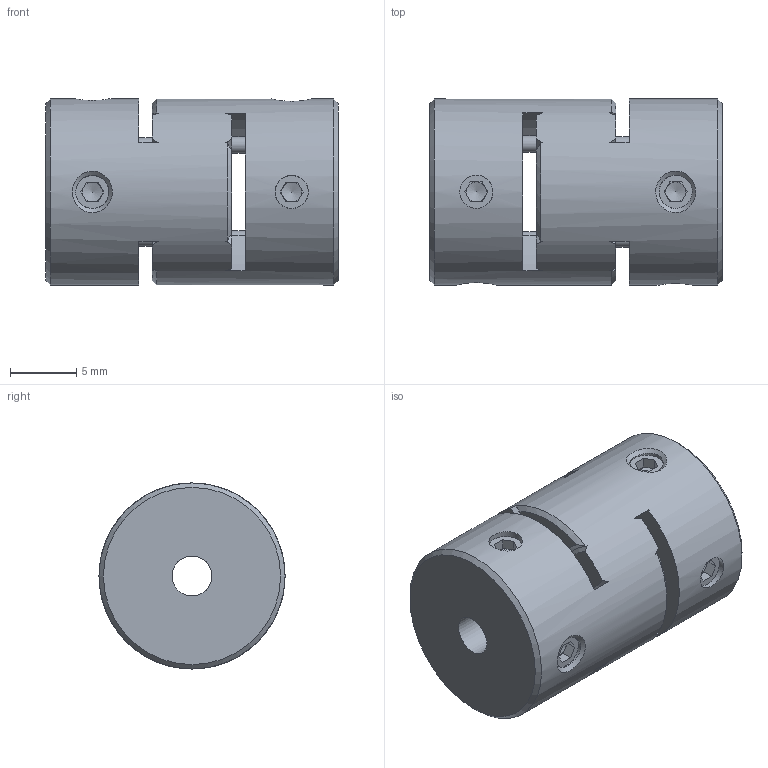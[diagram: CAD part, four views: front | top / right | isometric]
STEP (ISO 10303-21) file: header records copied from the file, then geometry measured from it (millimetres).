
FILE_DESCRIPTION( ( 'Unknown' ), '1' );
FILE_NAME( 'F:/JAKOB-STEP+IGES-Dateien/STEP-Dateien/MJT/MJT 14.stp', 'Unknown', ( 'Unknown' ), ( 'Unknown' ), 'PSStep 10.1', 'Unknown', ' ' );
FILE_SCHEMA( ( 'AUTOMOTIVE_DESIGN { 1 0 10303 214 1 1 1 1 }' ) );
Length unit declared in the file: millimetre
Products named in the file (1): KT100049-oa3
Bounding box: 22 x 14 x 14 mm (x, y, z)
Volume: 2942.5 mm3; surface area: 1982.5 mm2
Topology: 1 solids, 1 shells, 154 faces, 403 edges, 252 vertices
Faces by surface type: plane 66, cylinder 48, cone 38, bspline 2
Full cylindrical faces by diameter (mm): 1.25 x4, 2.5 x8, 3 x2, 3.5 x1, 14 x1
Entity records: 6096 total; most frequent: CARTESIAN_POINT 1275, DIRECTION 766, ORIENTED_EDGE 700, EDGE_CURVE 350, AXIS2_PLACEMENT_3D 315, VERTEX_POINT 232, EDGE_LOOP 202, FACE_OUTER_BOUND 172
